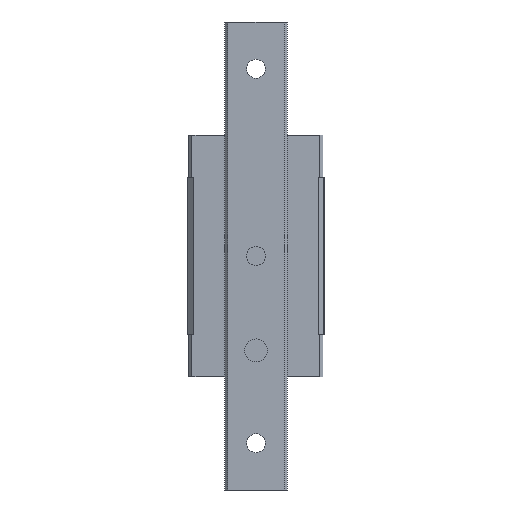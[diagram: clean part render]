
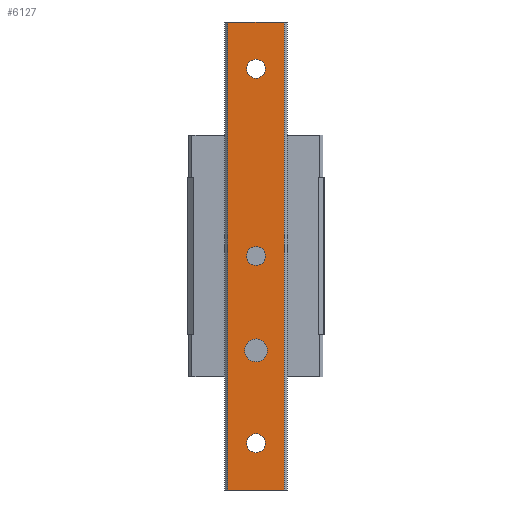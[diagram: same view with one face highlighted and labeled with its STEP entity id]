
A CAD part, front view. The second image highlights one B-rep face of the part: STEP entity #6127.
In plain terms, the highlighted planar face has unit normal (0, -1, 0).
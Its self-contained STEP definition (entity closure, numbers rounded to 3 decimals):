
#5009=DIRECTION('',(-1.,0.,0.));
#5010=VECTOR('',#5009,18.);
#5011=CARTESIAN_POINT('',(9.,-17.5,-75.));
#5012=LINE('',#5011,#5010);
#5013=DIRECTION('',(0.,0.,-1.));
#5014=VECTOR('',#5013,150.);
#5015=CARTESIAN_POINT('',(9.,-17.5,75.));
#5016=LINE('',#5015,#5014);
#5017=CARTESIAN_POINT('',(0.,-17.5,0.));
#5018=DIRECTION('',(0.,-1.,0.));
#5019=DIRECTION('',(1.,0.,0.));
#5020=AXIS2_PLACEMENT_3D('',#5017,#5018,#5019);
#5022=CARTESIAN_POINT('',(0.,-17.5,0.));
#5023=DIRECTION('',(0.,-1.,0.));
#5024=DIRECTION('',(-1.,0.,0.));
#5025=AXIS2_PLACEMENT_3D('',#5022,#5023,#5024);
#5027=CARTESIAN_POINT('',(0.,-17.5,60.));
#5028=DIRECTION('',(0.,-1.,0.));
#5029=DIRECTION('',(1.,0.,0.));
#5030=AXIS2_PLACEMENT_3D('',#5027,#5028,#5029);
#5032=CARTESIAN_POINT('',(0.,-17.5,60.));
#5033=DIRECTION('',(0.,-1.,0.));
#5034=DIRECTION('',(-1.,0.,0.));
#5035=AXIS2_PLACEMENT_3D('',#5032,#5033,#5034);
#5037=CARTESIAN_POINT('',(0.,-17.5,-60.));
#5038=DIRECTION('',(0.,-1.,0.));
#5039=DIRECTION('',(1.,0.,0.));
#5040=AXIS2_PLACEMENT_3D('',#5037,#5038,#5039);
#5042=CARTESIAN_POINT('',(0.,-17.5,-60.));
#5043=DIRECTION('',(0.,-1.,0.));
#5044=DIRECTION('',(-1.,0.,0.));
#5045=AXIS2_PLACEMENT_3D('',#5042,#5043,#5044);
#5047=CARTESIAN_POINT('',(0.02,-17.5,-30.25));
#5048=DIRECTION('',(0.,1.,0.));
#5049=DIRECTION('',(0.,0.,-1.));
#5050=AXIS2_PLACEMENT_3D('',#5047,#5048,#5049);
#5052=CARTESIAN_POINT('',(0.02,-17.5,-30.25));
#5053=DIRECTION('',(0.,1.,0.));
#5054=DIRECTION('',(0.,0.,1.));
#5055=AXIS2_PLACEMENT_3D('',#5052,#5053,#5054);
#5057=DIRECTION('',(0.,0.,-1.));
#5058=VECTOR('',#5057,150.);
#5059=CARTESIAN_POINT('',(-9.,-17.5,75.));
#5060=LINE('',#5059,#5058);
#5288=DIRECTION('',(-1.,0.,0.));
#5289=VECTOR('',#5288,18.);
#5290=CARTESIAN_POINT('',(9.,-17.5,75.));
#5291=LINE('',#5290,#5289);
#5553=CARTESIAN_POINT('',(-9.,-17.5,-75.));
#5554=VERTEX_POINT('',#5553);
#5555=CARTESIAN_POINT('',(9.,-17.5,-75.));
#5556=VERTEX_POINT('',#5555);
#5629=CARTESIAN_POINT('',(9.,-17.5,75.));
#5630=VERTEX_POINT('',#5629);
#5631=CARTESIAN_POINT('',(-9.,-17.5,75.));
#5632=VERTEX_POINT('',#5631);
#5633=CARTESIAN_POINT('',(3.,-17.5,0.));
#5634=CARTESIAN_POINT('',(-3.,-17.5,0.));
#5635=VERTEX_POINT('',#5633);
#5636=VERTEX_POINT('',#5634);
#5637=CARTESIAN_POINT('',(3.,-17.5,60.));
#5638=CARTESIAN_POINT('',(-3.,-17.5,60.));
#5639=VERTEX_POINT('',#5637);
#5640=VERTEX_POINT('',#5638);
#5641=CARTESIAN_POINT('',(3.,-17.5,-60.));
#5642=CARTESIAN_POINT('',(-3.,-17.5,-60.));
#5643=VERTEX_POINT('',#5641);
#5644=VERTEX_POINT('',#5642);
#5723=CARTESIAN_POINT('',(0.02,-17.5,-33.9));
#5724=CARTESIAN_POINT('',(0.02,-17.5,-26.6));
#5725=VERTEX_POINT('',#5723);
#5726=VERTEX_POINT('',#5724);
#6090=CARTESIAN_POINT('',(-9.,-17.5,-75.));
#6091=DIRECTION('',(0.,-1.,0.));
#6092=DIRECTION('',(1.,0.,0.));
#6093=AXIS2_PLACEMENT_3D('',#6090,#6091,#6092);
#6094=PLANE('',#6093);
#6095=ORIENTED_EDGE('',*,*,#5782,.T.);
#6097=ORIENTED_EDGE('',*,*,#6096,.F.);
#6099=ORIENTED_EDGE('',*,*,#6098,.F.);
#6100=ORIENTED_EDGE('',*,*,#6082,.T.);
#6101=EDGE_LOOP('',(#6095,#6097,#6099,#6100));
#6102=FACE_OUTER_BOUND('',#6101,.F.);
#6104=ORIENTED_EDGE('',*,*,#6103,.T.);
#6106=ORIENTED_EDGE('',*,*,#6105,.T.);
#6107=EDGE_LOOP('',(#6104,#6106));
#6108=FACE_BOUND('',#6107,.F.);
#6110=ORIENTED_EDGE('',*,*,#6109,.T.);
#6112=ORIENTED_EDGE('',*,*,#6111,.T.);
#6113=EDGE_LOOP('',(#6110,#6112));
#6114=FACE_BOUND('',#6113,.F.);
#6116=ORIENTED_EDGE('',*,*,#6115,.T.);
#6118=ORIENTED_EDGE('',*,*,#6117,.T.);
#6119=EDGE_LOOP('',(#6116,#6118));
#6120=FACE_BOUND('',#6119,.F.);
#6122=ORIENTED_EDGE('',*,*,#6121,.F.);
#6124=ORIENTED_EDGE('',*,*,#6123,.F.);
#6125=EDGE_LOOP('',(#6122,#6124));
#6126=FACE_BOUND('',#6125,.F.);
#6127=ADVANCED_FACE('',(#6102,#6108,#6114,#6120,#6126),#6094,.T.);
#5021=CIRCLE('',#5020,3.);
#5026=CIRCLE('',#5025,3.);
#5031=CIRCLE('',#5030,3.);
#5036=CIRCLE('',#5035,3.);
#5041=CIRCLE('',#5040,3.);
#5046=CIRCLE('',#5045,3.);
#5051=CIRCLE('',#5050,3.65);
#5056=CIRCLE('',#5055,3.65);
#5782=EDGE_CURVE('',#5556,#5554,#5012,.T.);
#6082=EDGE_CURVE('',#5630,#5556,#5016,.T.);
#6096=EDGE_CURVE('',#5632,#5554,#5060,.T.);
#6098=EDGE_CURVE('',#5630,#5632,#5291,.T.);
#6103=EDGE_CURVE('',#5635,#5636,#5021,.T.);
#6105=EDGE_CURVE('',#5636,#5635,#5026,.T.);
#6109=EDGE_CURVE('',#5639,#5640,#5031,.T.);
#6111=EDGE_CURVE('',#5640,#5639,#5036,.T.);
#6115=EDGE_CURVE('',#5643,#5644,#5041,.T.);
#6117=EDGE_CURVE('',#5644,#5643,#5046,.T.);
#6121=EDGE_CURVE('',#5725,#5726,#5051,.T.);
#6123=EDGE_CURVE('',#5726,#5725,#5056,.T.);
